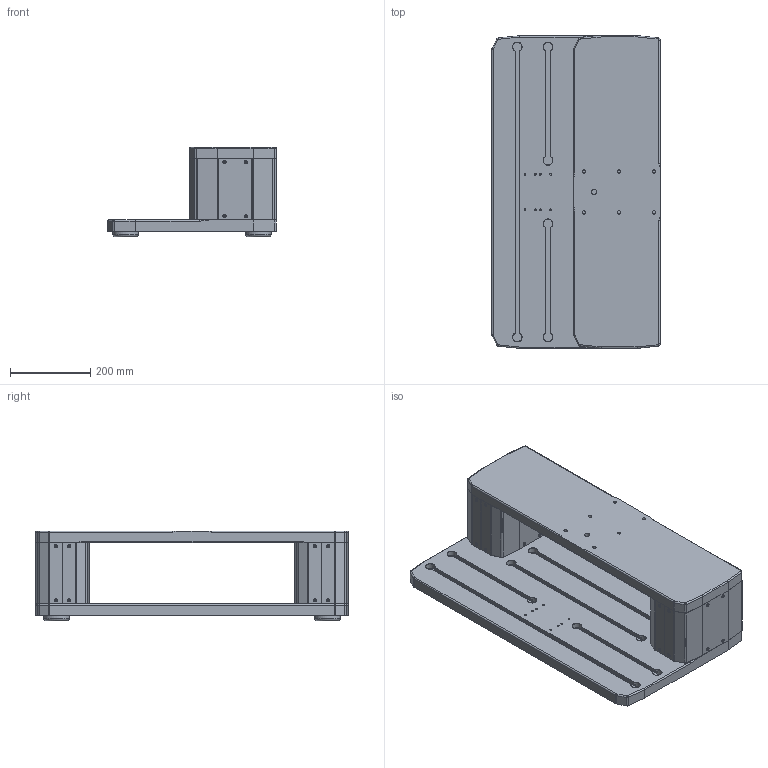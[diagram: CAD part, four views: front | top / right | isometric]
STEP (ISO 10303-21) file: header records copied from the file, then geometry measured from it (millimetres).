
FILE_DESCRIPTION(/* description */ (''),/* implementation_level */ '2;1');
FILE_NAME(/* name */ 'C:\Users\ntakaki\Desktop\New folder (2)\ESM303-002-1\ESM303-002-1.stp',/* time_stamp */ '2021-11-08T14:42:31-05:00',/* author */ ('ntakaki'),/* organization */ (''),/* preprocessor_version */ 'ST-DEVELOPER v18.1',/* originating_system */ 'AutoCAD Mechanical',/* authorisation */ '');
FILE_SCHEMA (('AUTOMOTIVE_DESIGN { 1 0 10303 214 3 1 1 }'));
Products named in the file (1): Product
Bounding box: 418.59 x 776.73 x 223.27 mm (x, y, z)
Volume: 21985688.8 mm3; surface area: 1637546.1 mm2
Topology: 1 solids, 6 shells, 1765 faces, 3989 edges, 2417 vertices
Faces by surface type: plane 761, cone 398, cylinder 362, bspline 224, torus 20
Full cylindrical faces by diameter (mm): 4.826 x8, 7.798 x32, 7.937 x1, 7.938 x16, 8.128 x4, 8.255 x18, 9.652 x4, 11.906 x16, 12.7 x1, 13.462 x14, 15.081 x4, 15.875 x4, 22.352 x4, 28.702 x4, 63.5 x4, 67.31 x4
Entity records: 53433 total; most frequent: CARTESIAN_POINT 15320, ORIENTED_EDGE 7978, DIRECTION 7556, EDGE_CURVE 3989, AXIS2_PLACEMENT_3D 2681, VERTEX_POINT 2417, LINE 2194, VECTOR 2194
